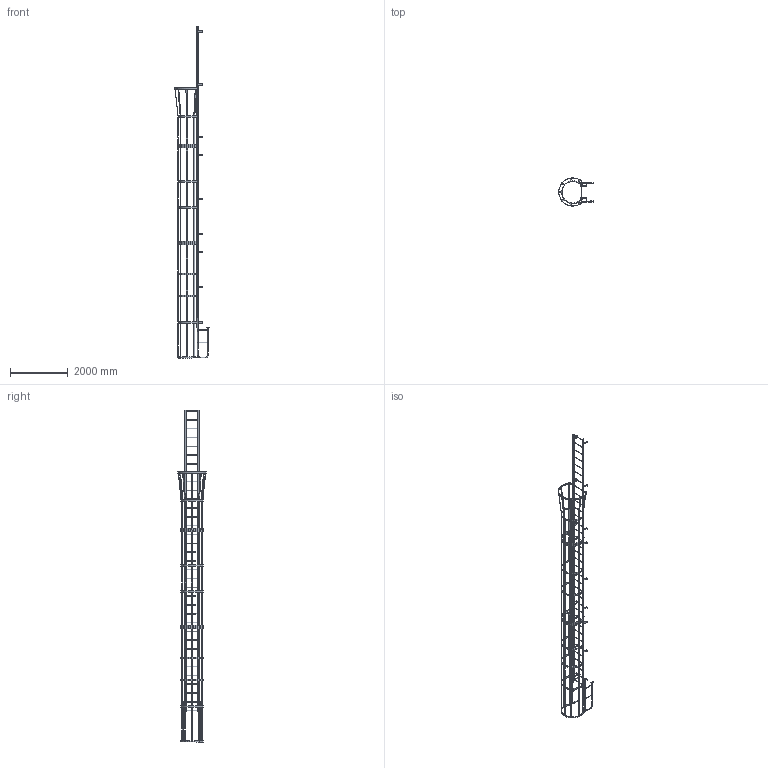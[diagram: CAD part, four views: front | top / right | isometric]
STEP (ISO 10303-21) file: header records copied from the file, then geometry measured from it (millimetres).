
FILE_DESCRIPTION(/* description */ (''),/* implementation_level */ '2;1');
FILE_NAME(/* name */ 'P:\MIKEL & KAREN\D0570196-21 F35WC SIMPLIFIED PART.stp',/* time_stamp */ '2018-07-03T08:25:05-04:00',/* author */ ('stephanie'),/* organization */ (''),/* preprocessor_version */ 'ST-DEVELOPER v16.1',/* originating_system */ 'Autodesk Inventor 2016',/* authorisation */ '');
FILE_SCHEMA (('AUTOMOTIVE_DESIGN { 1 0 10303 214 3 1 1 }'));
Length unit declared in the file: centimetre
Products named in the file (1): D0570196-21 F35WC SIMPLIFIED PART
Bounding box: 1195.62 x 977.88 x 11483.98 mm (x, y, z)
Volume: 38981816.2 mm3; surface area: 14727320.7 mm2
Topology: 52 solids, 52 shells, 1181 faces, 3577 edges, 2318 vertices
Faces by surface type: plane 766, cylinder 407, torus 8
Full cylindrical faces by diameter (mm): 10.319 x4, 14.287 x22, 19.05 x35, 22.098 x10, 22.225 x70, 25.4 x10
Entity records: 40720 total; most frequent: CARTESIAN_POINT 7122, ORIENTED_EDGE 6820, DIRECTION 6642, EDGE_CURVE 3320, LINE 2330, VECTOR 2330, VERTEX_POINT 2220, AXIS2_PLACEMENT_3D 2156
